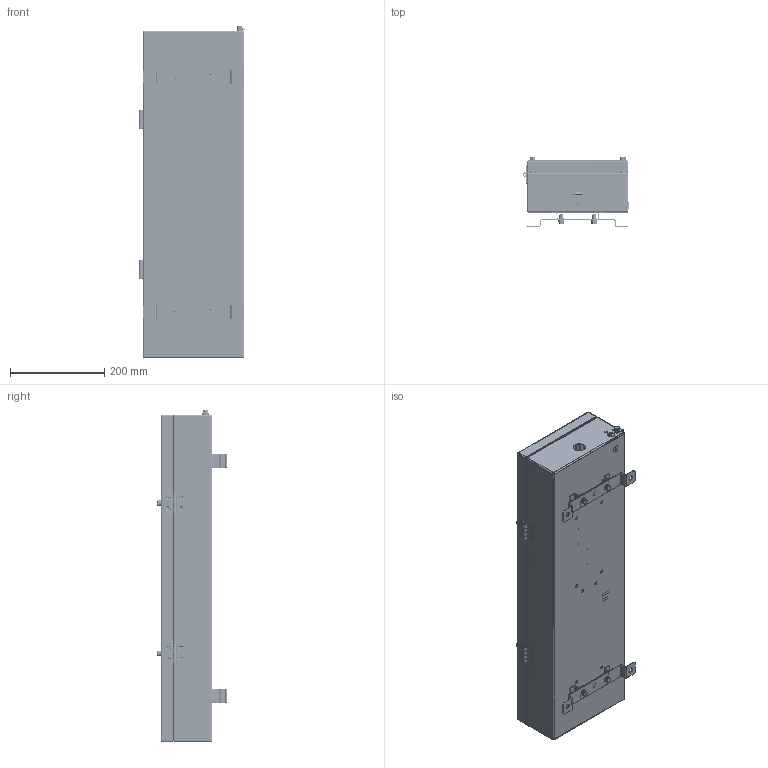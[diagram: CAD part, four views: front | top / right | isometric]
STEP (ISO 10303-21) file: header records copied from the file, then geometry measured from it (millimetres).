
FILE_DESCRIPTION((''),'2;1');
FILE_NAME('C:\Users\L.A.Ronzhin\Desktop\Новая папка (3)\ТЗ 40076\Светильники ГОРЭЛТЕХ\СГЛ01\СГЛ01-2480С-220AC_Н_П.stp','2019-04-10T16:27:45',('L.A.Ronzhin'),(''),'Autodesk Inventor 2012','Autodesk Inventor 2012','');
FILE_SCHEMA(('CONFIG_CONTROL_DESIGN'));
Length unit declared in the file: millimetre
Products named in the file (1): СГЛ01-2480С-220AC_Н_П_Внешний контур_1
Bounding box: 227.19 x 147.2 x 706.2 mm (x, y, z)
Surface area: 2003614.4 mm2 (no closed solid volume)
Topology: 0 solids, 217 shells, 6237 faces, 15431 edges, 10022 vertices
Faces by surface type: plane 3839, cylinder 1149, bspline 668, cone 467, torus 76, sphere 38
Full cylindrical faces by diameter (mm): 0.4 x2, 0.6 x8, 0.8 x56, 1.4 x8, 2.459 x18, 2.693 x4, 3 x34, 3.242 x22, 3.3 x2, 3.5 x4, 3.621 x2, 3.65 x8, 3.85 x4, 4 x18, 4.3 x6, 4.5 x4, 4.917 x27, 5 x24, 5.026 x2, 5.459 x5, 5.5 x4, 5.9 x16, 6 x55, 6.1 x8, 6.4 x23, 6.5 x9, 7 x24, 7.2 x2, 7.5 x38, 7.53 x8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
Entity records: 189329 total; most frequent: CARTESIAN_POINT 42706, ORIENTED_EDGE 28692, DIRECTION 26788, EDGE_CURVE 14346, VERTEX_POINT 9824, VECTOR 9312, LINE 9312, AXIS2_PLACEMENT_3D 8738
